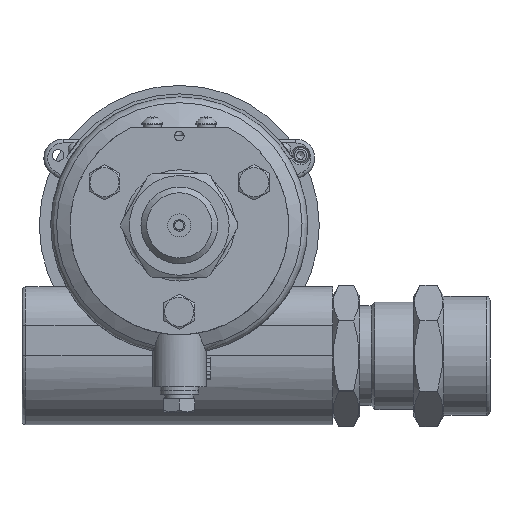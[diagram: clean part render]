
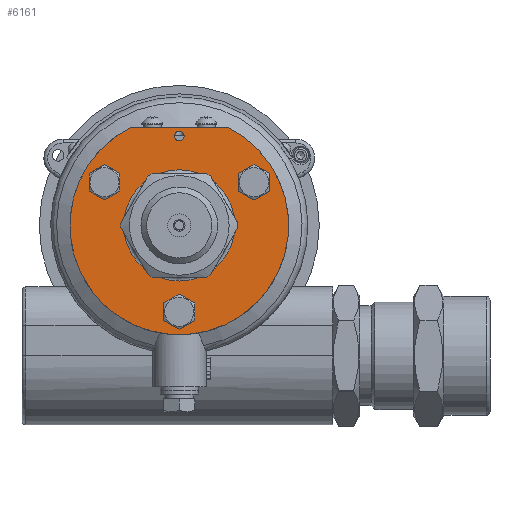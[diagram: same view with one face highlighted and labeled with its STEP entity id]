
A CAD part, front view. The second image highlights one B-rep face of the part: STEP entity #6161.
In plain terms, the highlighted planar face has unit normal (0, -1, 0) as drawn and (1, 0, 0) by its records, which use the part's own axes.
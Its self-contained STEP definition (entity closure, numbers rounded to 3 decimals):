
#6161=ADVANCED_FACE('',(#28692,#28694,#28696,#28698,#28700,#28702),#28704,.T.);
#28692=FACE_BOUND('',#28693,.T.);
#28693=EDGE_LOOP('',(#48601,#48602));
#28694=FACE_BOUND('',#28695,.T.);
#28695=EDGE_LOOP('',(#48603));
#28696=FACE_BOUND('',#28697,.T.);
#28697=EDGE_LOOP('',(#48604));
#28698=FACE_BOUND('',#28699,.T.);
#28699=EDGE_LOOP('',(#48605));
#28700=FACE_BOUND('',#28701,.T.);
#28701=EDGE_LOOP('',(#48606));
#28702=FACE_BOUND('',#28703,.T.);
#28703=EDGE_LOOP('',(#48607));
#28704=PLANE('',#28705);
#28705=AXIS2_PLACEMENT_3D('',#28706,#28707,#28708);
#28706=CARTESIAN_POINT('',(16.,0.,0.));
#28707=DIRECTION('',(1.,0.,0.));
#28708=DIRECTION('',(0.,-1.,0.));
#48601=ORIENTED_EDGE('',*,*,#60137,.T.);
#48602=ORIENTED_EDGE('',*,*,#60138,.F.);
#48603=ORIENTED_EDGE('',*,*,#60139,.T.);
#48604=ORIENTED_EDGE('',*,*,#60140,.T.);
#48605=ORIENTED_EDGE('',*,*,#60141,.T.);
#48606=ORIENTED_EDGE('',*,*,#60142,.T.);
#48607=ORIENTED_EDGE('',*,*,#60143,.T.);
#60137=EDGE_CURVE('',#68293,#68294,#68295,.F.);
#60138=EDGE_CURVE('',#68293,#68294,#68296,.T.);
#60139=EDGE_CURVE('',#68297,#68297,#68298,.T.);
#60140=EDGE_CURVE('',#68299,#68299,#68300,.T.);
#60141=EDGE_CURVE('',#68301,#68301,#68302,.T.);
#60142=EDGE_CURVE('',#68303,#68303,#68304,.T.);
#60143=EDGE_CURVE('',#68305,#68305,#68306,.F.);
#68293=VERTEX_POINT('',#87064);
#68294=VERTEX_POINT('',#87065);
#68295=LINE('',#87066,#87067);
#68296=CIRCLE('',#87069,28.5);
#68297=VERTEX_POINT('',#87073);
#68298=CIRCLE('',#87074,2.75);
#68299=VERTEX_POINT('',#87078);
#68300=CIRCLE('',#87079,2.75);
#68301=VERTEX_POINT('',#87083);
#68302=CIRCLE('',#87084,14.5);
#68303=VERTEX_POINT('',#87088);
#68304=CIRCLE('',#87089,2.75);
#68305=VERTEX_POINT('',#87093);
#68306=CIRCLE('',#87094,1.25);
#87064=CARTESIAN_POINT('',(16.,-12.728,-25.5));
#87065=CARTESIAN_POINT('',(16.,12.728,-25.5));
#87066=CARTESIAN_POINT('',(16.,12.728,-25.5));
#87067=VECTOR('',#87068,1.);
#87068=DIRECTION('',(0.,-1.,0.));
#87069=AXIS2_PLACEMENT_3D('',#87070,#87071,#87072);
#87070=CARTESIAN_POINT('',(16.,0.,0.));
#87071=DIRECTION('',(-1.,0.,0.));
#87072=DIRECTION('',(0.,-0.447,-0.895));
#87073=CARTESIAN_POINT('',(16.,21.867,-9.875));
#87074=AXIS2_PLACEMENT_3D('',#87075,#87076,#87077);
#87075=CARTESIAN_POINT('',(16.,19.486,-11.25));
#87076=DIRECTION('',(-1.,0.,0.));
#87077=DIRECTION('',(0.,0.866,0.5));
#87078=CARTESIAN_POINT('',(16.,-2.382,23.875));
#87079=AXIS2_PLACEMENT_3D('',#87080,#87081,#87082);
#87080=CARTESIAN_POINT('',(16.,0.,22.5));
#87081=DIRECTION('',(-1.,0.,0.));
#87082=DIRECTION('',(0.,-0.866,0.5));
#87083=CARTESIAN_POINT('',(16.,-14.5,0.));
#87084=AXIS2_PLACEMENT_3D('',#87085,#87086,#87087);
#87085=CARTESIAN_POINT('',(16.,0.,0.));
#87086=DIRECTION('',(-1.,0.,0.));
#87087=DIRECTION('',(0.,-1.,0.));
#87088=CARTESIAN_POINT('',(16.,-19.486,-14.));
#87089=AXIS2_PLACEMENT_3D('',#87090,#87091,#87092);
#87090=CARTESIAN_POINT('',(16.,-19.486,-11.25));
#87091=DIRECTION('',(-1.,0.,0.));
#87092=DIRECTION('',(0.,0.,-1.));
#87093=CARTESIAN_POINT('',(16.,0.,-22.05));
#87094=AXIS2_PLACEMENT_3D('',#87095,#87096,#87097);
#87095=CARTESIAN_POINT('',(16.,0.,-23.3));
#87096=DIRECTION('',(1.,0.,0.));
#87097=DIRECTION('',(0.,0.,1.));
